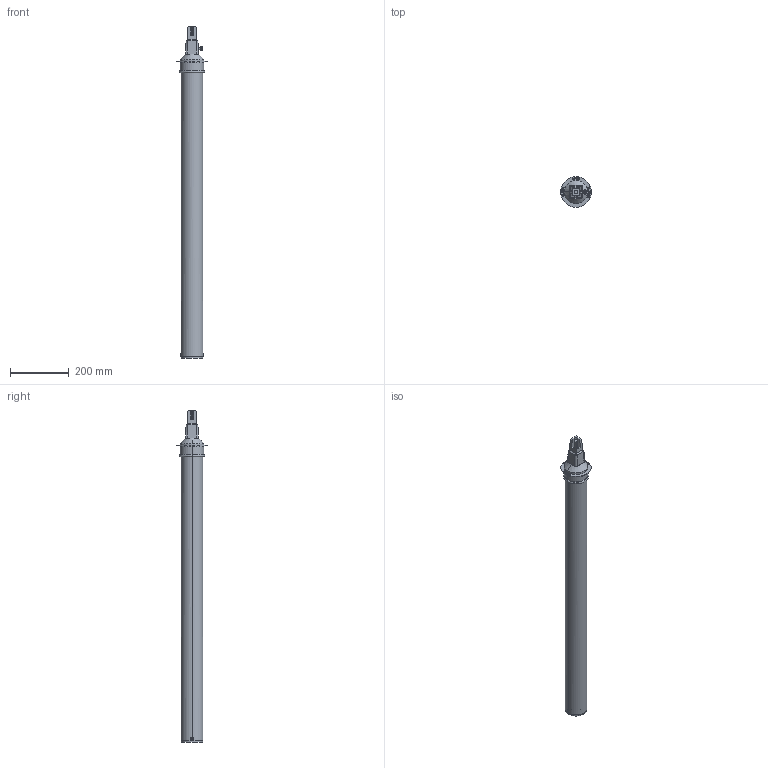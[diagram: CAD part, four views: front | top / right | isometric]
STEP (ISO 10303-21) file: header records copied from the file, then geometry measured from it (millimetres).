
FILE_DESCRIPTION((''),'2;1');
FILE_NAME('WUH2416-3-KHMO-050-065_BBV-4KT_ASM','2023-07-07T11:13:24',('jeitlers'),('KLINGER'),'CREO PARAMETRIC BY PTC INC, 2020184','CREO PARAMETRIC BY PTC INC, 2020184','');
FILE_SCHEMA(('AP242_MANAGED_MODEL_BASED_3D_ENGINEERING_MIM_LF { 1 0 10303 442 1 1 4 }'));
Length unit declared in the file: millimetre
Products named in the file (13): WUH2416-HDPE-SCHUTZROHR; WUH2416-KUNSTSOFFKAPPE; WUH2416-TYPENSCHILD; WUH2416-ABDICHTKAPPE; WUH2416-VIERKANTSCHONER-SW27-32; WUH2416-BETAETIGUNGSSTANGE-2565; DIN3121-NUSS---1Z_SW19_AF0; WUH2416-BETEATIGUNGSSTUECK-2565_ASM; DIN914_M5_10_GEWST_I6KT_SPITZ; SKTSCHR_GEWKO_M8X16--8_8-VZD; KHMO-ADAPTER--050_0651_4021; DIN914_M8_20_GEWST_I6KT_SPITZ; WUH2416-3-KHMO-050-065_BBV-4KT_ASM
Assembly tree (13 placements, depth 3):
  WUH2416-3-KHMO-050-065_BBV-4KT_ASM
    WUH2416-HDPE-SCHUTZROHR
    WUH2416-KUNSTSOFFKAPPE
    WUH2416-TYPENSCHILD
    WUH2416-ABDICHTKAPPE
    WUH2416-VIERKANTSCHONER-SW27-32
    WUH2416-BETEATIGUNGSSTUECK-2565_ASM
      WUH2416-BETAETIGUNGSSTANGE-2565
      DIN3121-NUSS---1Z_SW19_AF0
    DIN914_M5_10_GEWST_I6KT_SPITZ
    SKTSCHR_GEWKO_M8X16--8_8-VZD
    KHMO-ADAPTER--050_0651_4021
    DIN914_M8_20_GEWST_I6KT_SPITZ  x2
Bounding box: 105 x 105 x 1135 mm (x, y, z)
Volume: 1658262.9 mm3; surface area: 671838.6 mm2
Topology: 12 solids, 23 shells, 680 faces, 1824 edges, 1197 vertices
Faces by surface type: plane 510, cylinder 102, cone 38, torus 30
Entity records: 23454 total; most frequent: CARTESIAN_POINT 5415, ORIENTED_EDGE 3504, DIRECTION 3320, EDGE_CURVE 1774, VECTOR 1412, LINE 1412, VERTEX_POINT 1168, AXIS2_PLACEMENT_3D 954
